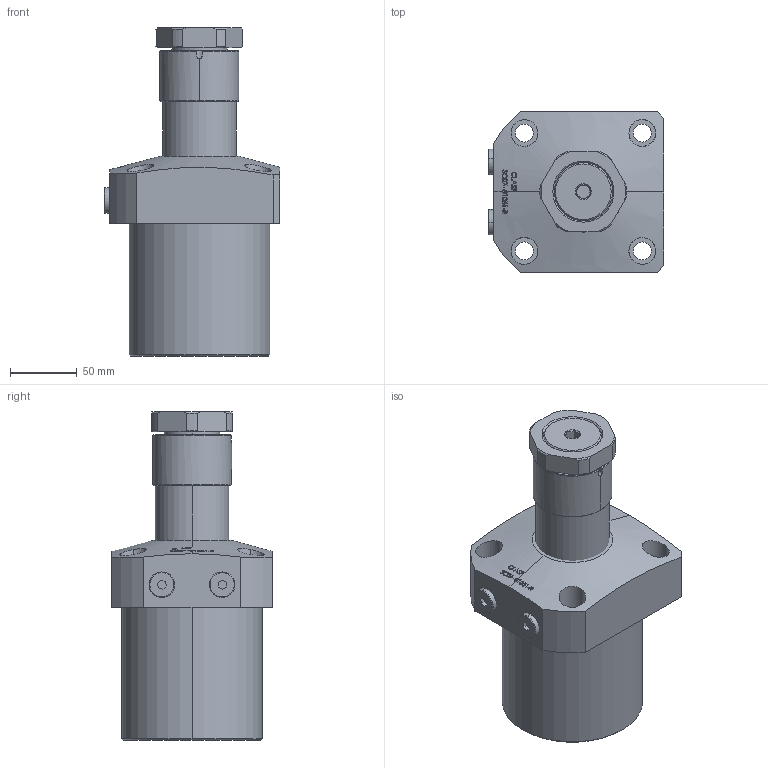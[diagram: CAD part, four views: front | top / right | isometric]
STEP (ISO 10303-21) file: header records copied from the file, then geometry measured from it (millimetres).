
FILE_DESCRIPTION (( 'STEP AP203' ), '1' );
FILE_NAME ('SC07-01051-R.STEP', '2022-07-05T17:56:02', ( '' ), ( '' ), 'SwSTEP 2.0', 'SolidWorks 2017', '' );
FILE_SCHEMA (( 'CONFIG_CONTROL_DESIGN' ));
Length unit declared in the file: millimetre
Products named in the file (6): SC-07-01051-R-05 plug; SC-07-1051-R-04 sleeve; SC-07-01051-R-03-nut; SC07-01051-R; SC-07-01051-R BODY; SC-07-01051-R-Piston
Assembly tree (6 placements, depth 2):
  SC07-01051-R
    SC-07-01051-R BODY
    SC-07-01051-R-Piston
    SC-07-01051-R-05 plug  x2
    SC-07-1051-R-04 sleeve
    SC-07-01051-R-03-nut
Bounding box: 131 x 120 x 245 mm (x, y, z)
Volume: 1762764.4 mm3; surface area: 137886.4 mm2
Topology: 6 solids, 6 shells, 374 faces, 932 edges, 611 vertices
Faces by surface type: plane 167, bspline 94, cylinder 62, cone 50, torus 1
Entity records: 17176 total; most frequent: CARTESIAN_POINT 8681, ORIENTED_EDGE 1800, DIRECTION 1271, EDGE_CURVE 900, VERTEX_POINT 591, AXIS2_PLACEMENT_3D 430, VECTOR 411, EDGE_LOOP 411
